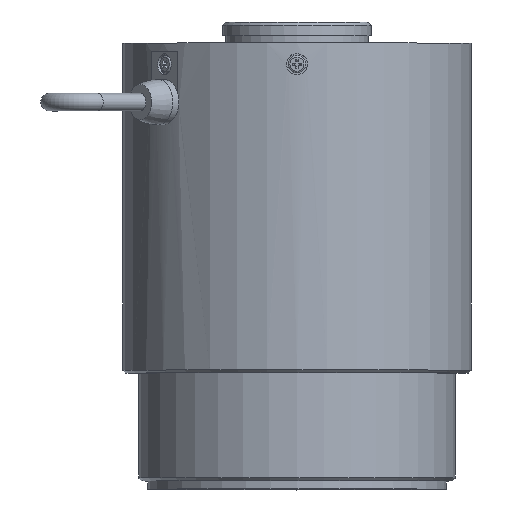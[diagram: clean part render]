
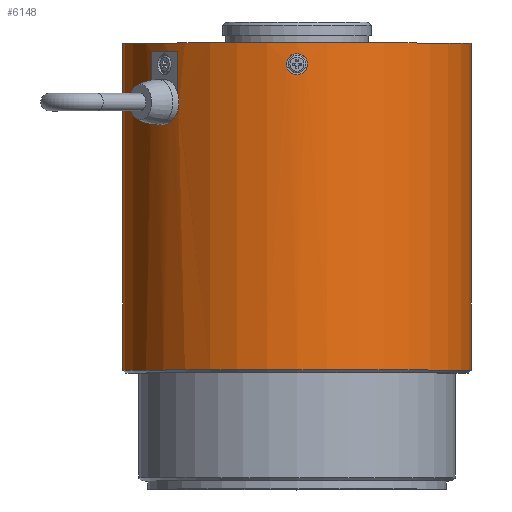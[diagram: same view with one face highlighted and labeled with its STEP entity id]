
A CAD part, top view. The second image highlights one B-rep face of the part: STEP entity #6148.
In plain terms, the highlighted cylindrical face has radius 29.75 mm (diameter 59.5 mm), a full revolution.
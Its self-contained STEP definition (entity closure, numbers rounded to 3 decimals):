
#259=B_SPLINE_CURVE_WITH_KNOTS('',3,(#7936,#7937,#7938,#7939,#7940,#7941,
#7942,#7943,#7944,#7945,#7946),.UNSPECIFIED.,.F.,.F.,(4,1,1,1,1,1,1,1,4),
(0.016,0.018,0.02,0.022,
0.024,0.026,0.028,0.03,
0.032),.UNSPECIFIED.);
#260=B_SPLINE_CURVE_WITH_KNOTS('',3,(#8405,#8406,#8407,#8408,#8409,#8410,
#8411,#8412,#8413,#8414,#8415),.UNSPECIFIED.,.T.,.F.,(1,1,1,1,1,1,1,1,1,
1,1,1,1,1,1),(-0.004,-0.003,-0.001,
0.,0.001,0.003,0.004,0.006,
0.007,0.008,0.01,0.011,
0.013,0.014,0.015),.UNSPECIFIED.);
#261=B_SPLINE_CURVE_WITH_KNOTS('',3,(#8420,#8421,#8422,#8423,#8424,#8425,
#8426,#8427,#8428,#8429,#8430),.UNSPECIFIED.,.T.,.F.,(1,1,1,1,1,1,1,1,1,
1,1,1,1,1,1),(-0.004,-0.003,-0.001,
0.,0.001,0.003,0.004,0.006,
0.007,0.008,0.01,0.011,
0.013,0.014,0.015),.UNSPECIFIED.);
#262=B_SPLINE_CURVE_WITH_KNOTS('',3,(#8435,#8436,#8437,#8438,#8439,#8440,
#8441,#8442,#8443,#8444,#8445),.UNSPECIFIED.,.T.,.F.,(1,1,1,1,1,1,1,1,1,
1,1,1,1,1,1),(-0.004,-0.003,-0.001,
0.,0.001,0.003,0.004,0.006,
0.007,0.008,0.01,0.011,
0.013,0.014,0.015),.UNSPECIFIED.);
#462=LINE('',#8448,#871);
#464=LINE('',#8457,#873);
#871=VECTOR('',#7163,1000.);
#873=VECTOR('',#7173,1000.);
#1582=ORIENTED_EDGE('',*,*,#2426,.T.);
#1583=ORIENTED_EDGE('',*,*,#2203,.T.);
#1584=ORIENTED_EDGE('',*,*,#2430,.T.);
#1585=ORIENTED_EDGE('',*,*,#2448,.F.);
#1586=ORIENTED_EDGE('',*,*,#2449,.T.);
#1587=ORIENTED_EDGE('',*,*,#2428,.T.);
#1588=ORIENTED_EDGE('',*,*,#2421,.T.);
#1589=ORIENTED_EDGE('',*,*,#2423,.T.);
#1590=ORIENTED_EDGE('',*,*,#2425,.T.);
#2203=EDGE_CURVE('',#2757,#2756,#259,.T.);
#2421=EDGE_CURVE('',#2909,#2909,#260,.F.);
#2423=EDGE_CURVE('',#2911,#2911,#261,.F.);
#2425=EDGE_CURVE('',#2913,#2913,#262,.F.);
#2426=EDGE_CURVE('',#2914,#2757,#462,.T.);
#2428=EDGE_CURVE('',#2915,#2915,#3183,.T.);
#2430=EDGE_CURVE('',#2756,#2917,#464,.F.);
#2448=EDGE_CURVE('',#2914,#2917,#3201,.T.);
#2449=EDGE_CURVE('',#2934,#2934,#3202,.F.);
#2756=VERTEX_POINT('',#7935);
#2757=VERTEX_POINT('',#7947);
#2909=VERTEX_POINT('',#8416);
#2911=VERTEX_POINT('',#8431);
#2913=VERTEX_POINT('',#8446);
#2914=VERTEX_POINT('',#8449);
#2915=VERTEX_POINT('',#8453);
#2917=VERTEX_POINT('',#8458);
#2934=VERTEX_POINT('',#8516);
#3183=CIRCLE('',#6448,29.75);
#3201=CIRCLE('',#6488,29.75);
#3202=CIRCLE('',#6490,29.75);
#3433=EDGE_LOOP('',(#1582,#1583,#1584,#1585));
#3434=EDGE_LOOP('',(#1586));
#3435=EDGE_LOOP('',(#1587));
#3436=EDGE_LOOP('',(#1588));
#3437=EDGE_LOOP('',(#1589));
#3438=EDGE_LOOP('',(#1590));
#3825=FACE_BOUND('',#3433,.T.);
#3826=FACE_BOUND('',#3434,.T.);
#3827=FACE_BOUND('',#3435,.T.);
#3828=FACE_BOUND('',#3436,.T.);
#3829=FACE_BOUND('',#3437,.T.);
#3830=FACE_BOUND('',#3438,.T.);
#4075=CYLINDRICAL_SURFACE('',#6489,29.75);
#6148=ADVANCED_FACE('',(#3825,#3826,#3827,#3828,#3829,#3830),#4075,.T.);
#6448=AXIS2_PLACEMENT_3D('',#8452,#7167,#7168);
#6488=AXIS2_PLACEMENT_3D('',#8513,#7249,#7250);
#6489=AXIS2_PLACEMENT_3D('',#8514,#7251,#7252);
#6490=AXIS2_PLACEMENT_3D('',#8515,#7253,#7254);
#7163=DIRECTION('',(0.,-1.,0.));
#7167=DIRECTION('',(0.,1.,0.));
#7168=DIRECTION('',(-1.,0.,0.));
#7173=DIRECTION('',(0.,-1.,0.));
#7249=DIRECTION('',(0.,-1.,0.));
#7250=DIRECTION('',(0.,0.,-1.));
#7251=DIRECTION('',(0.,-1.,0.));
#7252=DIRECTION('',(1.,0.,0.));
#7253=DIRECTION('',(0.,1.,0.));
#7254=DIRECTION('',(0.,0.,1.));
#7935=CARTESIAN_POINT('',(-24.881,-26.123,16.309));
#7936=CARTESIAN_POINT('',(-20.382,-26.123,21.671));
#7937=CARTESIAN_POINT('',(-20.186,-26.705,21.855));
#7938=CARTESIAN_POINT('',(-20.009,-28.014,22.015));
#7939=CARTESIAN_POINT('',(-20.476,-29.893,21.59));
#7940=CARTESIAN_POINT('',(-21.517,-31.248,20.569));
#7941=CARTESIAN_POINT('',(-22.81,-31.74,19.134));
#7942=CARTESIAN_POINT('',(-23.994,-31.245,17.617));
#7943=CARTESIAN_POINT('',(-24.818,-29.895,16.416));
#7944=CARTESIAN_POINT('',(-25.155,-28.007,15.882));
#7945=CARTESIAN_POINT('',(-25.03,-26.71,16.083));
#7946=CARTESIAN_POINT('',(-24.881,-26.123,16.309));
#7947=CARTESIAN_POINT('',(-20.382,-26.123,21.671));
#8405=CARTESIAN_POINT('',(-26.446,-22.669,-13.64));
#8406=CARTESIAN_POINT('',(-26.703,-21.256,-13.113));
#8407=CARTESIAN_POINT('',(-26.445,-19.846,-13.641));
#8408=CARTESIAN_POINT('',(-25.776,-19.263,-14.881));
#8409=CARTESIAN_POINT('',(-25.035,-19.846,-16.083));
#8410=CARTESIAN_POINT('',(-24.708,-21.258,-16.568));
#8411=CARTESIAN_POINT('',(-25.035,-22.666,-16.084));
#8412=CARTESIAN_POINT('',(-25.775,-23.252,-14.883));
#8413=CARTESIAN_POINT('',(-26.446,-22.669,-13.64));
#8414=CARTESIAN_POINT('',(-26.703,-21.256,-13.113));
#8415=CARTESIAN_POINT('',(-26.445,-19.846,-13.641));
#8416=CARTESIAN_POINT('',(-26.617,-21.257,-13.289));
#8420=CARTESIAN_POINT('',(25.036,-22.669,-16.082));
#8421=CARTESIAN_POINT('',(24.708,-21.256,-16.569));
#8422=CARTESIAN_POINT('',(25.036,-19.846,-16.082));
#8423=CARTESIAN_POINT('',(25.776,-19.263,-14.882));
#8424=CARTESIAN_POINT('',(26.446,-19.846,-13.64));
#8425=CARTESIAN_POINT('',(26.703,-21.258,-13.114));
#8426=CARTESIAN_POINT('',(26.446,-22.666,-13.639));
#8427=CARTESIAN_POINT('',(25.777,-23.252,-14.881));
#8428=CARTESIAN_POINT('',(25.036,-22.669,-16.082));
#8429=CARTESIAN_POINT('',(24.708,-21.256,-16.569));
#8430=CARTESIAN_POINT('',(25.036,-19.846,-16.082));
#8431=CARTESIAN_POINT('',(24.817,-21.257,-16.407));
#8435=CARTESIAN_POINT('',(1.41,-22.669,29.723));
#8436=CARTESIAN_POINT('',(1.995,-21.256,29.682));
#8437=CARTESIAN_POINT('',(1.409,-19.846,29.723));
#8438=CARTESIAN_POINT('',(0.001,-19.263,29.764));
#8439=CARTESIAN_POINT('',(-1.411,-19.846,29.723));
#8440=CARTESIAN_POINT('',(-1.995,-21.258,29.682));
#8441=CARTESIAN_POINT('',(-1.411,-22.666,29.723));
#8442=CARTESIAN_POINT('',(-0.001,-23.252,29.764));
#8443=CARTESIAN_POINT('',(1.41,-22.669,29.723));
#8444=CARTESIAN_POINT('',(1.995,-21.256,29.682));
#8445=CARTESIAN_POINT('',(1.409,-19.846,29.723));
#8446=CARTESIAN_POINT('',(1.8,-21.257,29.695));
#8448=CARTESIAN_POINT('',(-20.382,-18.926,21.671));
#8449=CARTESIAN_POINT('',(-20.382,-19.026,21.671));
#8452=CARTESIAN_POINT('',(0.,-73.426,0.));
#8453=CARTESIAN_POINT('',(-29.75,-73.426,0.));
#8457=CARTESIAN_POINT('',(-24.881,-27.626,16.309));
#8458=CARTESIAN_POINT('',(-24.881,-19.026,16.309));
#8513=CARTESIAN_POINT('',(0.,-19.026,0.));
#8514=CARTESIAN_POINT('',(0.,-17.486,0.));
#8515=CARTESIAN_POINT('',(0.,-17.626,0.));
#8516=CARTESIAN_POINT('',(0.,-17.626,29.75));
